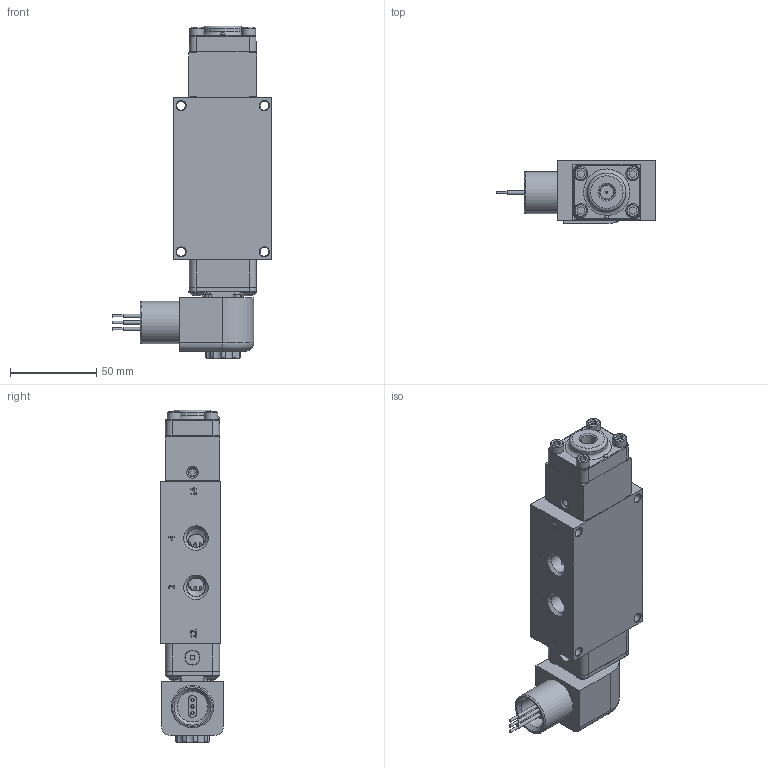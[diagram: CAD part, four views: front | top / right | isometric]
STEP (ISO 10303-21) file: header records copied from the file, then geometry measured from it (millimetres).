
FILE_DESCRIPTION(/* description */ (''),/* implementation_level */ '2;1');
FILE_NAME(/* name */ 'ZESR2XQZ.stp',/* time_stamp */ '2026-09-22T13:40:50-04:00',/* author */ ('rmckenna'),/* organization */ (''),/* preprocessor_version */ 'ST-DEVELOPER v20.2',/* originating_system */ 'Autodesk Inventor 2027',/* authorisation */ '');
FILE_SCHEMA (('AUTOMOTIVE_DESIGN { 1 0 10303 214 3 1 1 }'));
Products named in the file (1): Part25
Bounding box: 92.9 x 36.56 x 193 mm (x, y, z)
Volume: 274022.2 mm3; surface area: 84306.9 mm2
Topology: 1 solids, 24 shells, 1632 faces, 3955 edges, 2519 vertices
Faces by surface type: plane 740, cylinder 396, cone 280, torus 128, bspline 83, sphere 5
Full cylindrical faces by diameter (mm): 1.016 x1, 1.3 x1, 1.397 x1, 1.5 x2, 1.524 x3, 2.032 x11, 2.35 x4, 2.8 x1, 2.819 x1, 3 x4, 3.048 x2, 3.175 x2, 3.4 x1, 3.683 x9, 3.988 x1, 4.191 x2, 4.305 x1, 4.394 x1, 4.826 x8, 4.953 x1, 4.978 x2, 5.08 x1, 5.15 x4, 5.156 x16, 5.159 x4, 5.5 x1, 6.553 x1, 6.9 x1, 7.188 x1, 7.75 x1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
Entity records: 52946 total; most frequent: CARTESIAN_POINT 12909, DIRECTION 7976, ORIENTED_EDGE 7886, EDGE_CURVE 3943, AXIS2_PLACEMENT_3D 2980, VERTEX_POINT 2518, LINE 2016, VECTOR 2016
